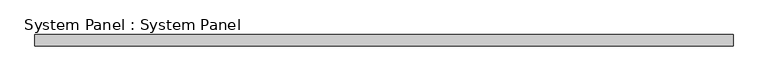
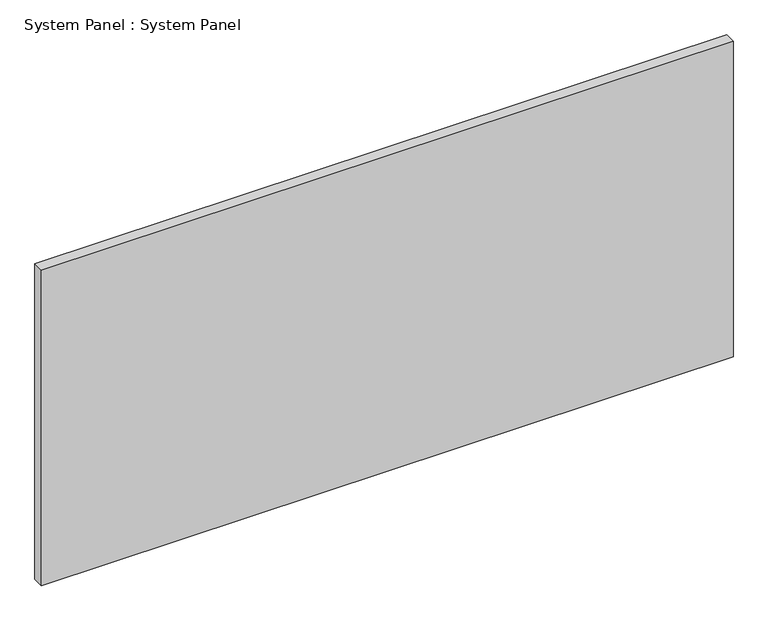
"""IFC4 building model written with IfcOpenShell, lengths in millimetres: plate geometry, System Panel : System Panel."""

from ifc_helpers import new_model, si_unit, origin, origin_with_axes, place, context, project, spatial, polyline, outline, extrude, source, transform, mapped, element, save


def system_panel_system_panel_36b3ad26(model_context):
    return source(origin(), model_context, "Body", "SweptSolid", [
        extrude(outline(polyline([(784.225, 19.05), (-784.225, 19.05), (-784.225, 44.45), (784.225, 44.45), (784.225, 19.05)])), origin_with_axes(), (0.0, 0.0, 1.0), 755.65),
    ])


if __name__ == "__main__":
    model = new_model("IFC4")
    model_context = context("Model", 3, world=origin())
    ifc_project = project(units=[si_unit("LENGTHUNIT", "METRE", prefix="MILLI")], contexts=[model_context])
    site = spatial("IfcSite", under=ifc_project)
    building = spatial("IfcBuilding", under=site)
    placement = place(None, origin())
    system_panel_system_panel_shape = system_panel_system_panel_36b3ad26(model_context)
    element("IfcPlate", 1, ObjectType="System Panel : System Panel", at=placement, inside=building, context=model_context, shape_type="MappedRepresentation", body=[
        mapped(system_panel_system_panel_shape, transform((0.0, 0.0, 0.0), x_axis=(1.0, 0.0, 0.0), y_axis=(0.0, 1.0, 0.0), z_axis=(0.0, 0.0, 1.0))),
    ])
    save(model, "model.ifc")
